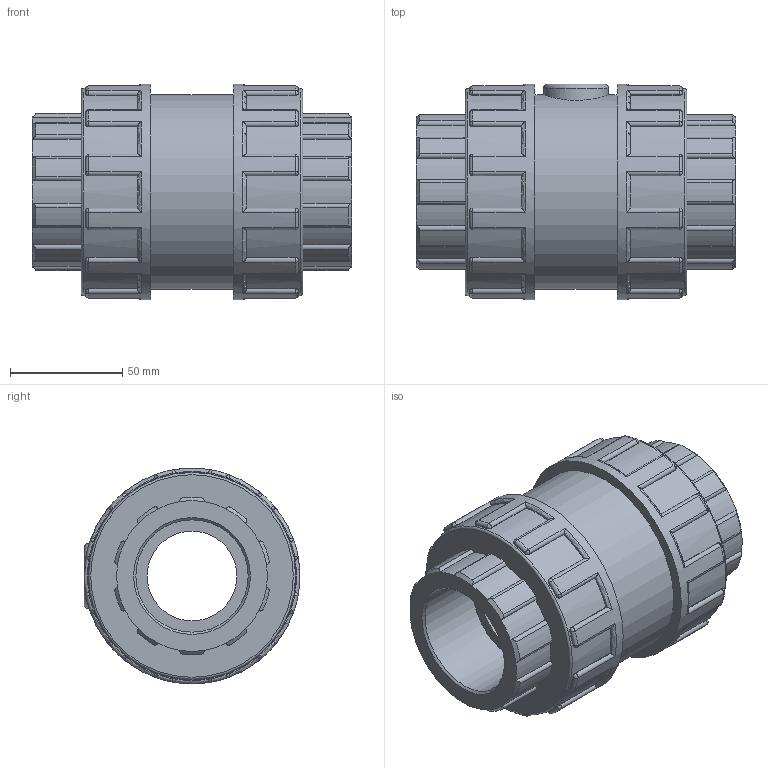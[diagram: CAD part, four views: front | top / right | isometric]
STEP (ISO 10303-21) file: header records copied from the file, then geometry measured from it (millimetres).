
FILE_DESCRIPTION(/* description */ ('PLASSON AIR RELEASE VALVE CEM PVC 50'),/* implementation_level */ '2;1');
FILE_NAME(/* name */ 'C:\Dropbox\KIMPROJECTS-Inventor\99-16-3568-Processing\PVC Catalog 2017\116300 - 116900\116300050.ipt.stp',/* time_stamp */ '2017-12-07T16:13:26+02:00',/* author */ ('KIM'),/* organization */ (''),/* preprocessor_version */ 'ST-DEVELOPER v15.6',/* originating_system */ 'Autodesk Inventor 2015',/* authorisation */ '');
FILE_SCHEMA (('AUTOMOTIVE_DESIGN { 1 0 10303 214 3 1 1 }'));
Length unit declared in the file: millimetre
Products named in the file (1): 116300050
Bounding box: 142 x 96 x 96 mm (x, y, z)
Volume: 585128.6 mm3; surface area: 73661.5 mm2
Topology: 1 solids, 1 shells, 411 faces, 1021 edges, 618 vertices
Faces by surface type: cylinder 185, plane 105, torus 51, sphere 48, cone 22
Full cylindrical faces by diameter (mm): 28.8 x1, 40 x1, 50 x2, 86.4 x1, 92.16 x2, 96 x2
Entity records: 13394 total; most frequent: CARTESIAN_POINT 3615, DIRECTION 2180, ORIENTED_EDGE 1998, EDGE_CURVE 999, AXIS2_PLACEMENT_3D 906, VERTEX_POINT 611, CIRCLE 494, EDGE_LOOP 434
